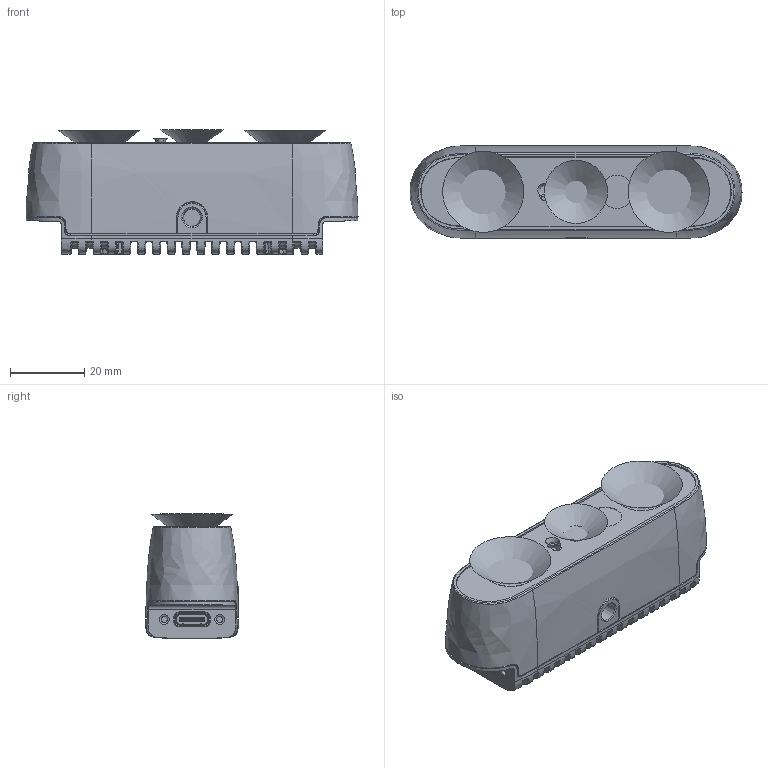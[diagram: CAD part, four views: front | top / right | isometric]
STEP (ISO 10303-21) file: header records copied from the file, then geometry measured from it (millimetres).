
FILE_DESCRIPTION(/* description */ (''),/* implementation_level */ '2;1');
FILE_NAME(/* name */ '117920.stp',/* time_stamp */ '2026-05-29T14:04:20+02:00',/* author */ (''),/* organization */ (''),/* preprocessor_version */ 'ST-DEVELOPER v20',/* originating_system */ 'Autodesk Inventor 2024',/* authorisation */ '');
FILE_SCHEMA (('CONFIG_CONTROL_DESIGN'));
Products named in the file (1): 117920
Bounding box: 89.45 x 25.02 x 33.43 mm (x, y, z)
Volume: 53354.5 mm3; surface area: 14541 mm2
Topology: 1 solids, 7 shells, 1567 faces, 3895 edges, 2353 vertices
Faces by surface type: cylinder 518, plane 476, bspline 429, torus 92, cone 50, sphere 2
Full cylindrical faces by diameter (mm): 1.65 x2, 2.65 x2, 7 x1, 9 x1, 14 x2
Entity records: 106964 total; most frequent: CARTESIAN_POINT 70543, ORIENTED_EDGE 7780, DIRECTION 6628, EDGE_CURVE 3894, AXIS2_PLACEMENT_3D 2470, VERTEX_POINT 2353, LINE 1688, VECTOR 1688
